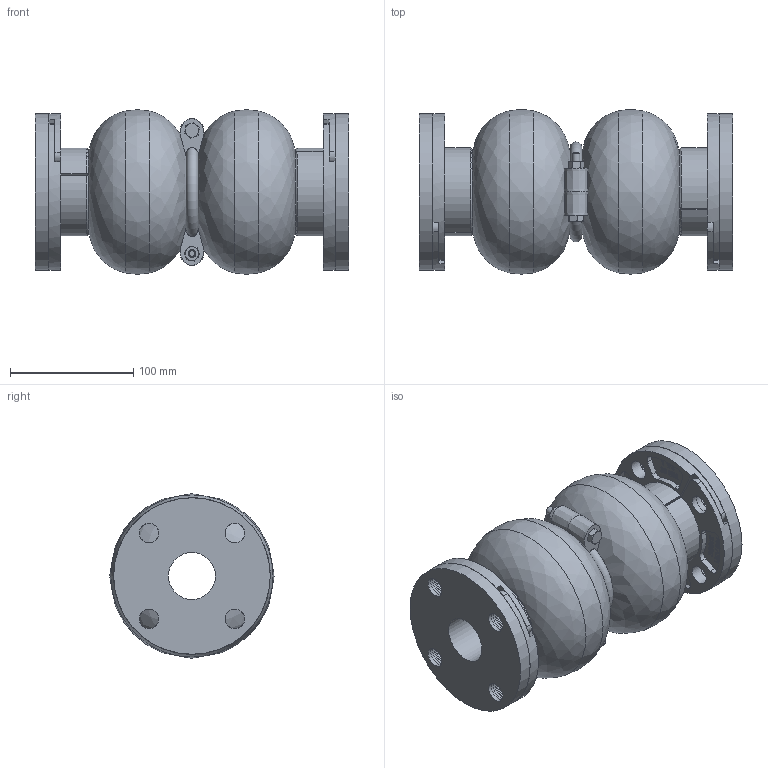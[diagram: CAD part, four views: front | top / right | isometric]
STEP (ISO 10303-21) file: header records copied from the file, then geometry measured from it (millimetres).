
FILE_DESCRIPTION((''),'2;1');
FILE_NAME('N:\StockJoints-ADSK, IGES, STEP, PNG\450 Style\STEP\452\Style452 1.5x10.stp','2013-07-26T16:11:22',('mquog'),(''),'Autodesk Inventor 2011','Autodesk Inventor 2011','');
FILE_SCHEMA(('AUTOMOTIVE_DESIGN { 1 0 10303 214 1 1 1 1 }'));
Length unit declared in the file: inch
Products named in the file (6): Style452 1.5x10; Hex Bolt - Inch 1/4-20 UNC - 2; Hex Nut - Inch 1/4 - 20; 1.5_MBR; 1.5DI450BUR150-1; 452 1.5x10
Assembly tree (11 placements, depth 2):
  Style452 1.5x10
    Hex Bolt - Inch 1/4-20 UNC - 2  x2
    Hex Nut - Inch 1/4 - 20  x2
    1.5_MBR  x2
    1.5DI450BUR150-1  x4
    452 1.5x10
Bounding box: 254 x 133.36 x 133.48 mm (x, y, z)
Volume: 1725801.3 mm3; surface area: 1479044.9 mm2
Topology: 41 solids, 43 shells, 1664 faces, 4258 edges, 2790 vertices
Faces by surface type: plane 714, bspline 672, cylinder 198, cone 44, torus 36
Full cylindrical faces by diameter (mm): 4.978 x2, 6.35 x2, 6.604 x2, 9.525 x4, 11.125 x2, 15.875 x60, 38.1 x3, 44.45 x6, 50.8 x12, 54.864 x6, 58.928 x8, 62.103 x3, 69.85 x6, 120.65 x12, 127 x2
Entity records: 23125 total; most frequent: CARTESIAN_POINT 9568, ORIENTED_EDGE 2610, DIRECTION 2211, EDGE_CURVE 1305, EDGE_LOOP 1056, VERTEX_POINT 971, AXIS2_PLACEMENT_3D 835, FACE_OUTER_BOUND 643
